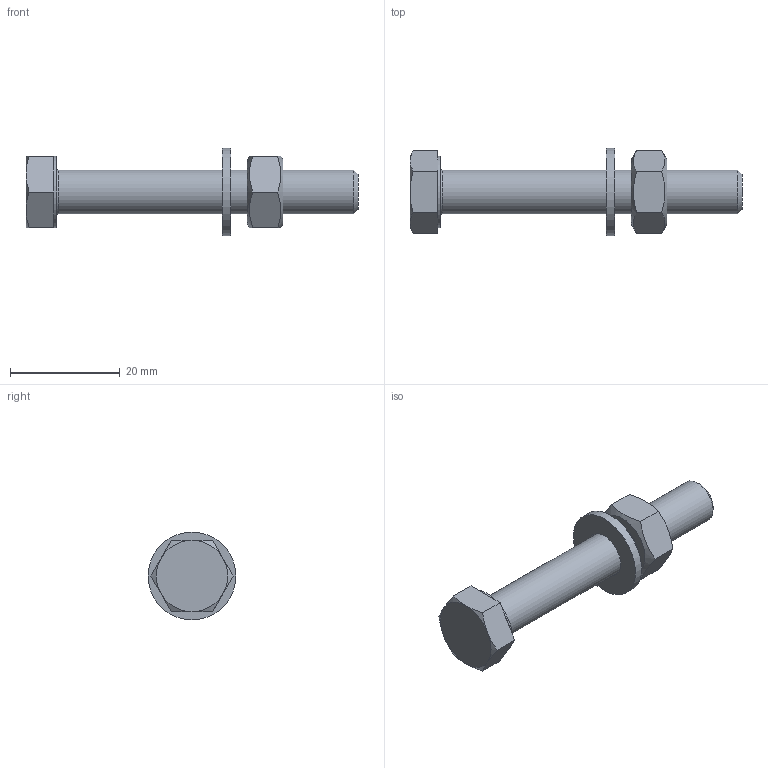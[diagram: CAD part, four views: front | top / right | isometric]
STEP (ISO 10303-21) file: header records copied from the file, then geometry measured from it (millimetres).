
FILE_DESCRIPTION( ( 'Unknown' ), '1' );
FILE_NAME( 'X:/Daten ( aktueller Bestand )/Projekte und Zeichnungen/Solid Edge/STP-Dateien/CF-Teile/7004.stp', 'Unknown', ( 'Unknown' ), ( 'Unknown' ), 'PSStep 14.0', 'Unknown', ' ' );
FILE_SCHEMA( ( 'AUTOMOTIVE_DESIGN { 1 0 10303 214 1 1 1 1 }' ) );
Length unit declared in the file: millimetre
Products named in the file (7): WUERTH_00968__55_hexagon_head_screw_DIN_933_M8x55_A2_70_BLK_2_03; 1_11; WUERTH_03228_hexagonal_nut____DIN_934__M8_A2_BLK_2_03; 1_0; WUERTH_04128_washer___DIN_125_1_A8_4_A4_BLK_2_03; 1_1; Assem1
Assembly tree (6 placements, depth 3):
  Assem1
    WUERTH_00968__55_hexagon_head_screw_DIN_933_M8x55_A2_70_BLK_2_03
      1_11
    WUERTH_04128_washer___DIN_125_1_A8_4_A4_BLK_2_03
      1_1
    WUERTH_03228_hexagonal_nut____DIN_934__M8_A2_BLK_2_03
      1_0
Bounding box: 60.5 x 16 x 16 mm (x, y, z)
Volume: 4479.7 mm3; surface area: 2908.5 mm2
Topology: 3 solids, 3 shells, 42 faces, 87 edges, 52 vertices
Faces by surface type: plane 25, cone 11, cylinder 5, torus 1
Full cylindrical faces by diameter (mm): 6.647 x1, 8 x1, 8.4 x1, 13 x1, 16 x1
Entity records: 1492 total; most frequent: CARTESIAN_POINT 226, DIRECTION 182, ORIENTED_EDGE 150, AXIS2_PLACEMENT_3D 79, EDGE_CURVE 75, EDGE_LOOP 58, VERTEX_POINT 51, FACE_OUTER_BOUND 48
